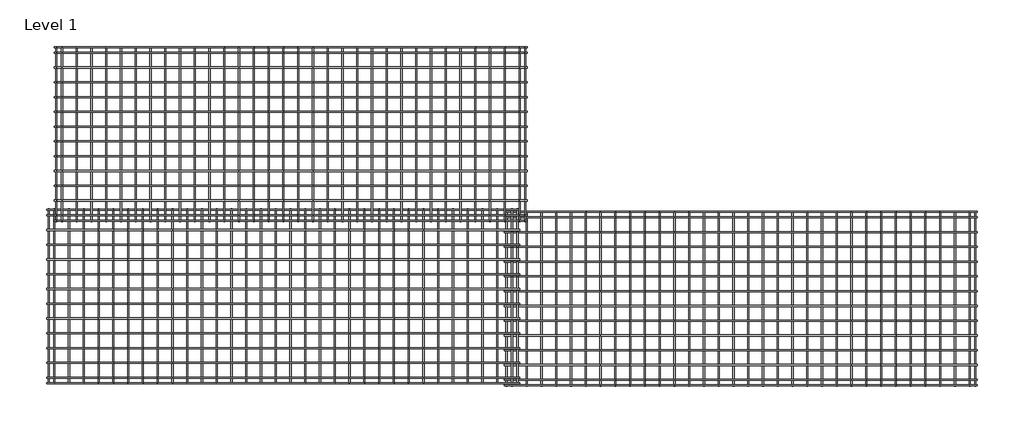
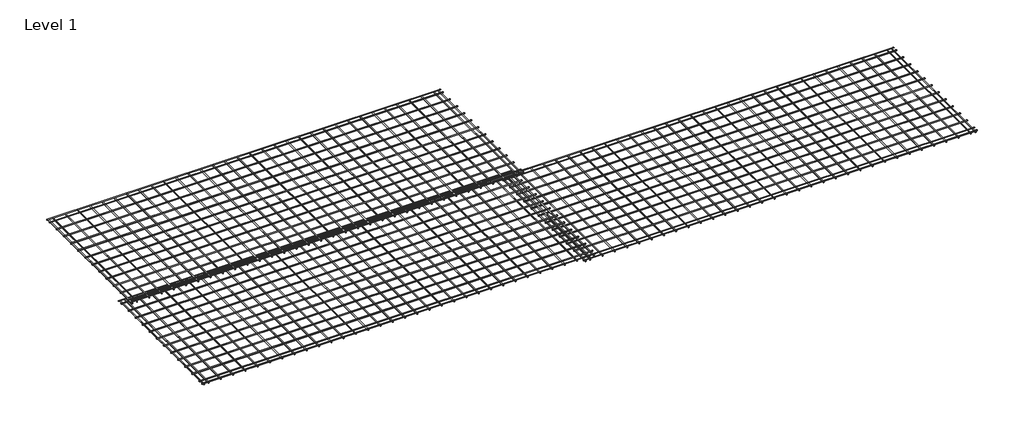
# One storey: 3 proxies.
"""IFC4 building model written with IfcOpenShell, lengths in millimetres."""

from ifc_helpers import new_model, si_unit, origin, place, context, project, spatial, transform, mapped, element, save
from components import united_steel_ml82_double_mesh_united_steel_ml82_double_mesh_c1f8a617

model = new_model("IFC4")

# Units and contexts
model_context = context("Model", 3, world=origin())
ifc_project = project(units=[si_unit("LENGTHUNIT", "METRE", prefix="MILLI")], contexts=[model_context])

# Site, building, storey
site = spatial("IfcSite", under=ifc_project)
building = spatial("IfcBuilding", under=site)
storey = spatial("IfcBuildingStorey", under=building, Name="Level 1", Elevation=0.0)

# Proxies
placement = place(None, origin())
united_steel_ml82_double_mesh_united_steel_ml82_double_mesh_shape = united_steel_ml82_double_mesh_united_steel_ml82_double_mesh_c1f8a617(model_context)
element("IfcBuildingElementProxy", 1, Name="United Steel ML82 Double Mesh : United Steel ML82 Double Mesh", ObjectType="United Steel ML82 Double Mesh : United Steel ML82 Double Mesh", at=placement, inside=storey, context=model_context, shape_type="MappedRepresentation", body=[
    mapped(united_steel_ml82_double_mesh_united_steel_ml82_double_mesh_shape, transform((4431.195054, 2171.3157499, 98.125), x_axis=(1.0, 0.0, 0.0), y_axis=(0.0, 1.0, 0.0), z_axis=(0.0, 0.0, 1.0))),
])
element("IfcBuildingElementProxy", 2, Name="United Steel ML82 Double Mesh : United Steel ML82 Double Mesh", ObjectType="United Steel ML82 Double Mesh : United Steel ML82 Double Mesh", at=placement, inside=storey, context=model_context, shape_type="MappedRepresentation", body=[
    mapped(united_steel_ml82_double_mesh_united_steel_ml82_double_mesh_shape, transform((4534.3856589, 4371.2261808, 126.09375), x_axis=(1.0, 0.0, 0.0), y_axis=(0.0, 1.0, 0.0), z_axis=(0.0, 0.0, 1.0))),
])
element("IfcBuildingElementProxy", 3, Name="United Steel ML82 Double Mesh : United Steel ML82 Double Mesh", ObjectType="United Steel ML82 Double Mesh : United Steel ML82 Double Mesh", at=placement, inside=storey, context=model_context, shape_type="MappedRepresentation", body=[
    mapped(united_steel_ml82_double_mesh_united_steel_ml82_double_mesh_shape, transform((10631.1955059, 2142.5757703, 66.3085938), x_axis=(1.0, 0.0, 0.0), y_axis=(0.0, 1.0, 0.0), z_axis=(0.0, 0.0, 1.0))),
])

save(model, "model.ifc")
